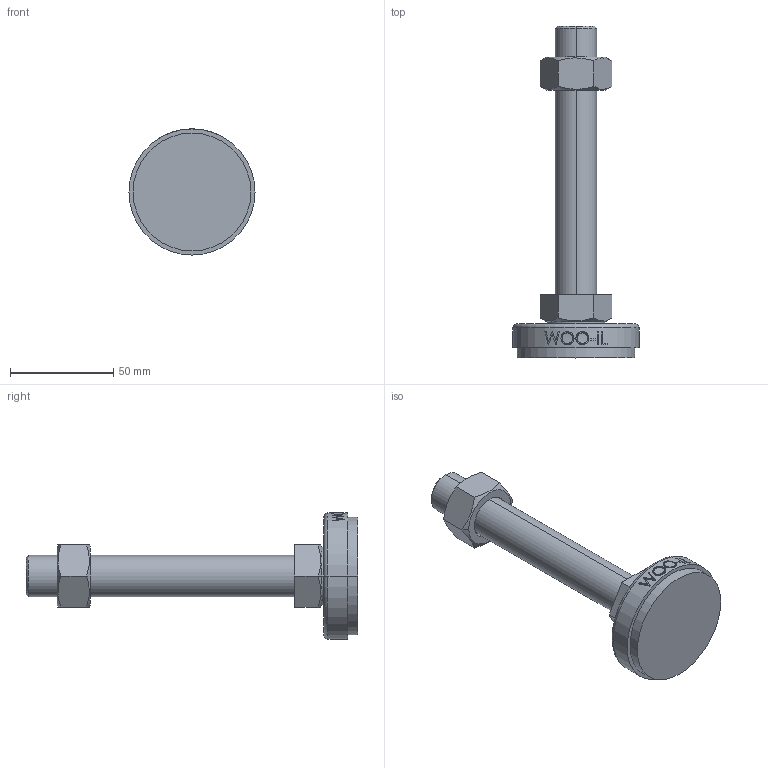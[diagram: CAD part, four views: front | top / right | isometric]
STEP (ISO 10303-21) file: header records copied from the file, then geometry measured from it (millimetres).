
FILE_DESCRIPTION (( 'STEP AP214' ), '1' );
FILE_NAME ('NS61-M20-130.step', '2021-01-11T05:46:35', ( '' ), ( '' ), 'SwSTEP 2.0', 'SolidWorks 2019', '' );
FILE_SCHEMA (( 'AUTOMOTIVE_DESIGN' ));
Length unit declared in the file: millimetre
Products named in the file (2): NS61-M20-130
Bounding box: 61 x 160.5 x 61 mm (x, y, z)
Volume: 104973.1 mm3; surface area: 23295.5 mm2
Topology: 3 solids, 3 shells, 96 faces, 223 edges, 144 vertices
Faces by surface type: plane 48, cylinder 18, bspline 16, cone 12, torus 2
Entity records: 4264 total; most frequent: CARTESIAN_POINT 2139, ORIENTED_EDGE 446, DIRECTION 381, EDGE_CURVE 223, VERTEX_POINT 144, AXIS2_PLACEMENT_3D 142, EDGE_LOOP 109, VECTOR 97
